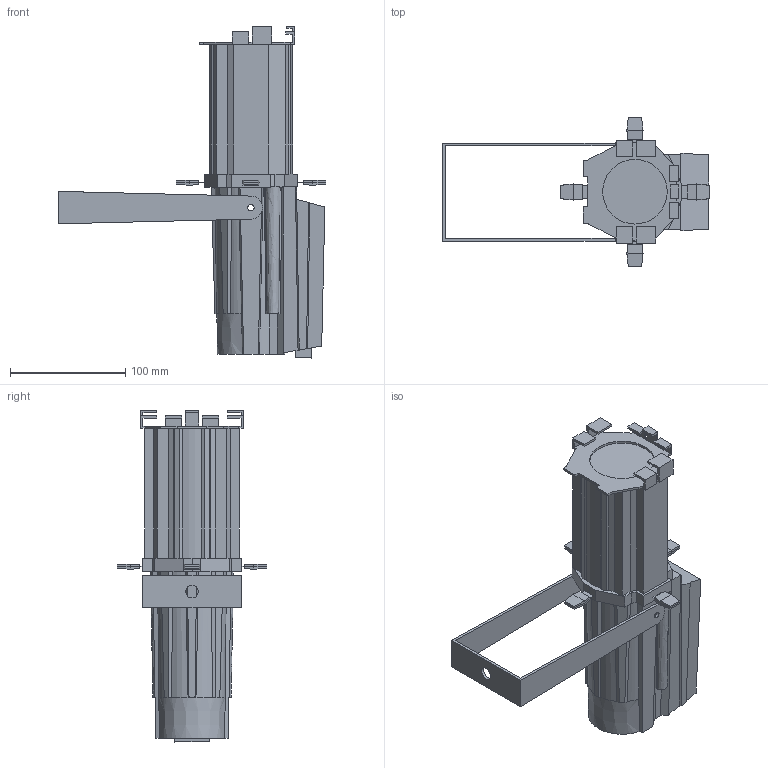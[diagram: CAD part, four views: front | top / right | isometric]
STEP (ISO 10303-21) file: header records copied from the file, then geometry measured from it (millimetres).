
FILE_DESCRIPTION(/* description */ (''),/* implementation_level */ '2;1');
FILE_NAME(/* name */ 'D:/dgooch/Documents/CADENG/PRO/Ovation ETD 40WW/90/Ovation ETD-40WW_90.step',/* time_stamp */ '2019-03-21T14:27:59-04:00',/* author */ ('dgooch'),/* organization */ (''),/* preprocessor_version */ 'ST-DEVELOPER v17.2',/* originating_system */ 'Autodesk Translation Framework v7.6.0.251',/* authorisation */ '');
FILE_SCHEMA (('AUTOMOTIVE_DESIGN { 1 0 10303 214 3 1 1 }'));
Length unit declared in the file: millimetre
Products named in the file (3): Ovation ETD40WW_V2; Bracket; Main
Assembly tree (2 placements, depth 2):
  Ovation ETD40WW_V2
    Bracket
    Main
Bounding box: 231.77 x 129.54 x 287.93 mm (x, y, z)
Volume: 1389315.7 mm3; surface area: 128554.7 mm2
Topology: 2 solids, 2 shells, 294 faces, 797 edges, 512 vertices
Faces by surface type: plane 243, bspline 42, cylinder 9
Full cylindrical faces by diameter (mm): 5.5 x3, 11 x1, 56 x1
Entity records: 12297 total; most frequent: CARTESIAN_POINT 5144, ORIENTED_EDGE 1594, DIRECTION 1233, EDGE_CURVE 797, LINE 649, VECTOR 649, VERTEX_POINT 512, EDGE_LOOP 307
